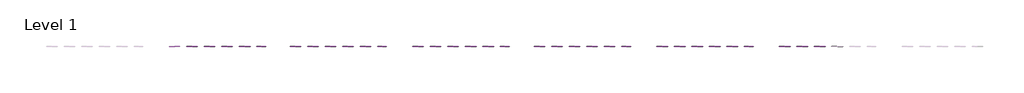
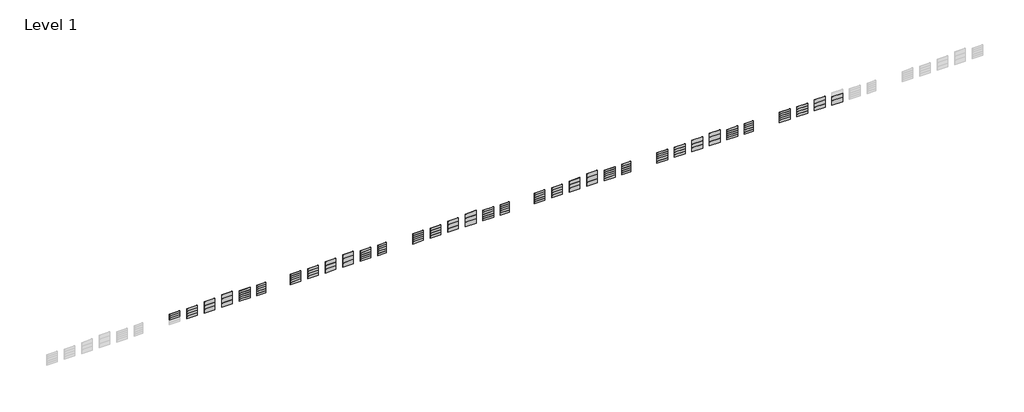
# One storey, part 5 of 7: 137 plates.
"""IFC4 building model written with IfcOpenShell, lengths in millimetres."""

import ifcopenshell
import ifcopenshell.guid

model = None  # the IFC model being written
_history = None  # IfcOwnerHistory: only IFC2X3 demands one
_inside = {}  # id of a spatial element -> (the spatial element, [elements in it])
_under = {}  # id of a project, library or spatial element -> (it, [spatial elements below it])
_declared = {}  # id of a project -> (the project, [libraries it declares])
_typed = {}  # id of a type object -> (the type object, [elements of that type])
_made_of = {}  # id of a material, layer set ... -> (it, [elements and type objects made of it])


def new_model(schema):
    """Start an empty IFC model of exactly this schema.

    Asked for "IFC4X3", IfcOpenShell would pick the latest addendum, in which some entities
    have other attributes; the version numbers below select the first issue.
    IFC2X3 requires an IfcOwnerHistory on every rooted entity: one is made here for all.
    """
    global model, _history
    if schema == "IFC4X3":
        model = ifcopenshell.file(schema_version=(4, 3, 0, 0))
    else:
        model = ifcopenshell.file(schema=schema)
    _inside.clear()
    _under.clear()
    _declared.clear()
    _typed.clear()
    _made_of.clear()
    _history = None
    if model.schema == "IFC2X3":
        org = make("IfcOrganization", Name="unknown")
        user = make(
            "IfcPersonAndOrganization",
            ThePerson=make("IfcPerson", FamilyName="unknown"),
            TheOrganization=org,
        )
        app = make(
            "IfcApplication",
            ApplicationDeveloper=org,
            Version="unknown",
            ApplicationFullName="unknown",
            ApplicationIdentifier="unknown",
        )
        _history = make(
            "IfcOwnerHistory",
            OwningUser=user,
            OwningApplication=app,
            ChangeAction="ADDED",
            CreationDate=0,
        )
    return model


def make(cls, **values):
    """One entity of the class cls with the attributes given. An attribute that is None is left unset."""
    return model.create_entity(
        cls, **{name: value for name, value in values.items() if value is not None}
    )


def rooted(cls, **values):
    """An entity with a GlobalId (a new one), such as an element, a storey or a relation."""
    return make(cls, GlobalId=ifcopenshell.guid.new(), OwnerHistory=_history, **values)


def si_unit(unit_type, name, prefix=None):
    """IfcSIUnit, for example si_unit("LENGTHUNIT", "METRE", prefix="MILLI")."""
    return make("IfcSIUnit", UnitType=unit_type, Prefix=prefix, Name=name)


def assignment(units):
    """IfcUnitAssignment: the units of a project."""
    return None if units is None else make("IfcUnitAssignment", Units=units)


def point(xyz):
    """IfcCartesianPoint."""
    return None if xyz is None else make("IfcCartesianPoint", Coordinates=xyz)


def direction(xyz):
    """IfcDirection."""
    return None if xyz is None else make("IfcDirection", DirectionRatios=xyz)


def frame(location, z_axis=None, x_axis=None):
    """IfcAxis2Placement3D, a coordinate frame: its origin and axes. An axis left out is left unset."""
    return make(
        "IfcAxis2Placement3D",
        Location=point(location),
        Axis=direction(z_axis),
        RefDirection=direction(x_axis),
    )


def origin():
    """The frame at (0, 0, 0) with its axes left unset."""
    return frame((0.0, 0.0, 0.0))


def origin_with_axes():
    """The frame at (0, 0, 0) with the z axis (0, 0, 1) and the x axis (1, 0, 0) written out."""
    return frame((0.0, 0.0, 0.0), z_axis=(0.0, 0.0, 1.0), x_axis=(1.0, 0.0, 0.0))


def place(relative_to, where):
    """IfcLocalPlacement: puts the frame where relative to a parent placement (None: the world)."""
    return make(
        "IfcLocalPlacement", PlacementRelTo=relative_to, RelativePlacement=where
    )


def context(
    kind, dimensions, precision=None, world=None, true_north=None, identifier=None
):
    """IfcGeometricRepresentationContext, for example the 3D "Model" context."""
    return make(
        "IfcGeometricRepresentationContext",
        ContextIdentifier=identifier,
        ContextType=kind,
        CoordinateSpaceDimension=dimensions,
        Precision=precision,
        WorldCoordinateSystem=world,
        TrueNorth=true_north,
    )


def project(units=None, contexts=None):
    """IfcProject with its units and contexts."""
    return rooted(
        "IfcProject",
        Name="project",
        RepresentationContexts=contexts,
        UnitsInContext=assignment(units),
    )


def spatial(cls, under=None, at=None, **own):
    """A site, building, storey or space (cls), placed at a placement, below another one or the project."""
    s = rooted(cls, ObjectPlacement=at, **own)
    if under is not None:
        _under.setdefault(under.id(), (under, []))[1].append(s)
    return s


def polyline(points):
    """IfcPolyline through the points."""
    return make("IfcPolyline", Points=[point(p) for p in points])


def outline(outer, holes=None, kind="AREA"):
    """IfcArbitraryClosedProfileDef: a profile drawn as a closed curve; with holes, ...WithVoids."""
    if holes is None:
        return make("IfcArbitraryClosedProfileDef", ProfileType=kind, OuterCurve=outer)
    return make(
        "IfcArbitraryProfileDefWithVoids",
        ProfileType=kind,
        OuterCurve=outer,
        InnerCurves=holes,
    )


def extrude(swept, where, along, depth):
    """IfcExtrudedAreaSolid: the profile swept, set in the frame where, extruded along a direction by depth."""
    return make(
        "IfcExtrudedAreaSolid",
        SweptArea=swept,
        Position=where,
        ExtrudedDirection=direction(along),
        Depth=depth,
    )


def shape(context_of_items, identifier, shape_type, items):
    """IfcShapeRepresentation: the items that make up one representation, for example the "Body"."""
    return make(
        "IfcShapeRepresentation",
        ContextOfItems=context_of_items,
        RepresentationIdentifier=identifier,
        RepresentationType=shape_type,
        Items=items,
    )


def source(mapping_origin, context_of_items, identifier, shape_type, items):
    """IfcRepresentationMap: a shape defined once, which mapped items show again and again."""
    return make(
        "IfcRepresentationMap",
        MappingOrigin=mapping_origin,
        MappedRepresentation=shape(context_of_items, identifier, shape_type, items),
    )


def transform(
    local_origin,
    x_axis=None,
    y_axis=None,
    z_axis=None,
    scale=None,
    scale2=None,
    scale3=None,
    uniform=True,
):
    """IfcCartesianTransformationOperator3D, or its non-uniform kind. x_axis, y_axis, z_axis: its Axis1, 2, 3."""
    if uniform:
        return make(
            "IfcCartesianTransformationOperator3D",
            Axis1=direction(x_axis),
            Axis2=direction(y_axis),
            LocalOrigin=point(local_origin),
            Scale=scale,
            Axis3=direction(z_axis),
        )
    return make(
        "IfcCartesianTransformationOperator3DnonUniform",
        Axis1=direction(x_axis),
        Axis2=direction(y_axis),
        LocalOrigin=point(local_origin),
        Scale=scale,
        Axis3=direction(z_axis),
        Scale2=scale2,
        Scale3=scale3,
    )


def mapped(mapping_source, mapping_target):
    """IfcMappedItem: shows the shape of a source again, moved by a transform."""
    return make(
        "IfcMappedItem", MappingSource=mapping_source, MappingTarget=mapping_target
    )


def made_of(thing, what):
    """Note that an element or type object is made of a material, layer set ...; save() writes the relation."""
    if what is not None:
        _made_of.setdefault(what.id(), (what, []))[1].append(thing)
    return thing


def element(
    cls,
    number,
    at=None,
    inside=None,
    cuts=None,
    type_object=None,
    material=None,
    context=None,
    identifier="Body",
    shape_type=None,
    held_by="IfcProductDefinitionShape",
    body=None,
    shapes=None,
    **own,
):
    """One element of the class cls, such as IfcWall. Its Tag is "e" and its number.

    at: its placement. inside: the storey or other place that contains it. cuts: it is an
    opening in that element (IfcRelVoidsElement). A single representation is given by context,
    identifier, shape_type and body (its items); several are given by shapes. held_by: the class
    of the entity that holds the representations. save() writes the other relations.
    """
    e = rooted(cls, Tag="e%d" % number, ObjectPlacement=at, **own)
    if body is not None:
        shapes = [shape(context, identifier, shape_type, body)]
    if shapes is not None:
        e.Representation = make(held_by, Representations=shapes)
    if inside is not None:
        _inside.setdefault(inside.id(), (inside, []))[1].append(e)
    if cuts is not None:
        rooted(
            "IfcRelVoidsElement", RelatingBuildingElement=cuts, RelatedOpeningElement=e
        )
    if type_object is not None:
        _typed.setdefault(type_object.id(), (type_object, []))[1].append(e)
    return made_of(e, material)


def aggregate(whole, parts):
    """IfcRelAggregates: a whole, such as a stair, and the parts it consists of."""
    return rooted("IfcRelAggregates", RelatingObject=whole, RelatedObjects=parts)


def save(model, path):
    """Write the relations noted so far, then the file.

    IfcRelAggregates (storeys below a building ...), IfcRelContainedInSpatialStructure (elements
    in a storey), IfcRelDefinesByType, IfcRelAssociatesMaterial and IfcRelDeclares: one each for
    every whole, place, type object, material and project.
    """
    for whole, parts in _under.values():
        aggregate(whole, parts)
    for where, things in _inside.values():
        rooted(
            "IfcRelContainedInSpatialStructure",
            RelatedElements=things,
            RelatingStructure=where,
        )
    for kind, things in _typed.values():
        rooted("IfcRelDefinesByType", RelatedObjects=things, RelatingType=kind)
    for what, things in _made_of.values():
        rooted("IfcRelAssociatesMaterial", RelatedObjects=things, RelatingMaterial=what)
    for by, libraries in _declared.values():
        rooted("IfcRelDeclares", RelatingContext=by, RelatedDefinitions=libraries)
    model.write(path)


def s001_satin_white_12mm_60b0a342(model_context):
    return source(origin(), model_context, "Body", "SweptSolid", [
        extrude(outline(polyline([(1840.0, 6.0), (1840.0, -6.0), (-1840.0, -6.0), (-1840.0, 6.0), (1840.0, 6.0)])), origin_with_axes(), (0.0, 0.0, 1.0), 760.0),
    ])


def s001_satin_white_12mm_af0daad2(model_context):
    return source(origin(), model_context, "Body", "SweptSolid", [
        extrude(outline(polyline([(1840.0, 6.0), (1840.0, -6.0), (-1840.0, -6.0), (-1840.0, 6.0), (1840.0, 6.0)])), origin_with_axes(), (0.0, 0.0, 1.0), 738.1288393),
    ])


def s001_satin_white_12mm_b3103b5f(model_context):
    return source(origin(), model_context, "Body", "SweptSolid", [
        extrude(outline(polyline([(1840.0, 6.0), (1840.0, -6.0), (-1840.0, -6.0), (-1840.0, 6.0), (1840.0, 6.0)])), origin_with_axes(), (0.0, 0.0, 1.0), 910.0),
    ])


def plate_547342df(model_context):
    return source(origin(), model_context, "Body", "SweptSolid", [
        extrude(outline(polyline([(1840.0, 6.0), (1840.0, -6.0), (-1840.0, -6.0), (-1840.0, 6.0), (1840.0, 6.0)])), origin_with_axes(), (0.0, 0.0, 1.0), 893.5112313),
    ])


def s001_satin_white_12mm_c1b55f6d(model_context):
    return source(origin(), model_context, "Body", "SweptSolid", [
        extrude(outline(polyline([(1840.0, 6.0), (1840.0, -6.0), (-1840.0, -6.0), (-1840.0, 6.0), (1840.0, 6.0)])), origin_with_axes(), (0.0, 0.0, 1.0), 1350.0),
    ])


def s001_satin_white_12mm_d668b75a(model_context):
    return source(origin(), model_context, "Body", "SweptSolid", [
        extrude(outline(polyline([(1840.0, 6.0), (1840.0, -6.0), (-1840.0, -6.0), (-1840.0, 6.0), (1840.0, 6.0)])), origin_with_axes(), (0.0, 0.0, 1.0), 1330.2413287),
    ])


def s001_satin_white_12mm_d8c75ca1(model_context):
    return source(origin(), model_context, "Body", "SweptSolid", [
        extrude(outline(polyline([(1840.0, 6.0), (1840.0, -6.0), (-1840.0, -6.0), (-1840.0, 6.0), (1840.0, 6.0)])), origin_with_axes(), (0.0, 0.0, 1.0), 1520.0),
    ])


def s001_satin_white_12mm_670b1509(model_context):
    return source(origin(), model_context, "Body", "SweptSolid", [
        extrude(outline(polyline([(1840.0, 6.0), (1840.0, -6.0), (-1840.0, -6.0), (-1840.0, 6.0), (1840.0, 6.0)])), origin_with_axes(), (0.0, 0.0, 1.0), 1507.8728994),
    ])


def s001_satin_white_20mm_e5290f1d(model_context):
    return source(origin(), model_context, "Body", "SweptSolid", [
        extrude(outline(polyline([(1840.0, 10.0), (1840.0, -10.0), (-1840.0, -10.0), (-1840.0, 10.0), (1840.0, 10.0)])), origin_with_axes(), (0.0, 0.0, 1.0), 760.0),
    ])


def plate_eaecce36(model_context):
    return source(origin(), model_context, "Body", "SweptSolid", [
        extrude(outline(polyline([(1840.0, 10.0), (1840.0, -10.0), (-1840.0, -10.0), (-1840.0, 10.0), (1840.0, 10.0)])), origin_with_axes(), (0.0, 0.0, 1.0), 738.1288393),
    ])


def s001_satin_white_20mm_25284a5f(model_context):
    return source(origin(), model_context, "Body", "SweptSolid", [
        extrude(outline(polyline([(1500.0, 10.0), (1500.0, -10.0), (-1500.0, -10.0), (-1500.0, 10.0), (1500.0, 10.0)])), origin_with_axes(), (0.0, 0.0, 1.0), 760.0),
    ])


def plate_eb5be41b(model_context):
    return source(origin(), model_context, "Body", "SweptSolid", [
        extrude(outline(polyline([(1500.0, 10.0), (1500.0, -10.0), (-1500.0, -10.0), (-1500.0, 10.0), (1500.0, 10.0)])), origin_with_axes(), (0.0, 0.0, 1.0), 738.1288393),
    ])


model = new_model("IFC4")

# Units and contexts
model_context = context("Model", 3, world=origin())
ifc_project = project(units=[si_unit("LENGTHUNIT", "METRE", prefix="MILLI")], contexts=[model_context])

# Site, building, storey
site = spatial("IfcSite", under=ifc_project)
building = spatial("IfcBuilding", under=site)
storey = spatial("IfcBuildingStorey", under=building, Name="Level 1", Elevation=0.0)

# Plates
placement = place(None, origin())
s001_satin_white_12mm_shape = s001_satin_white_12mm_60b0a342(model_context)
element("IfcPlate", 1, ObjectType="Curtain-Panels_Outdoor-Material_HI-MACS_Solids : S104_Toffee-Brown_12mm", at=placement, inside=storey, context=model_context, shape_type="MappedRepresentation", body=[
    mapped(s001_satin_white_12mm_shape, transform((665815.8858072, 1061.3187116, 1520.0), x_axis=(1.0, 0.0, 0.0), y_axis=(0.0, 1.0, 0.0), z_axis=(0.0, 0.0, 1.0))),
])
element("IfcPlate", 2, ObjectType="Curtain-Panels_Outdoor-Material_HI-MACS_Solids : S104_Toffee-Brown_12mm", at=placement, inside=storey, context=model_context, shape_type="MappedRepresentation", body=[
    mapped(s001_satin_white_12mm_shape, transform((665815.8858072, 1061.3187116, 2280.0), x_axis=(1.0, 0.0, 0.0), y_axis=(0.0, 1.0, 0.0), z_axis=(0.0, 0.0, 1.0))),
])
s001_satin_white_12mm_2_shape = s001_satin_white_12mm_af0daad2(model_context)
element("IfcPlate", 3, ObjectType="Curtain-Panels_Outdoor-Material_HI-MACS_Solids : S104_Toffee-Brown_12mm", at=placement, inside=storey, context=model_context, shape_type="MappedRepresentation", body=[
    mapped(s001_satin_white_12mm_2_shape, transform((665815.8858072, 1061.3187116, 3040.0), x_axis=(1.0, 0.0, 0.0), y_axis=(0.0, 1.0, 0.0), z_axis=(0.0, 0.0, 1.0))),
])
s001_satin_white_12mm_3_shape = s001_satin_white_12mm_b3103b5f(model_context)
element("IfcPlate", 4, ObjectType="Curtain-Panels_Outdoor-Material_HI-MACS_Solids : S104_Toffee-Brown_12mm", at=placement, inside=storey, context=model_context, shape_type="MappedRepresentation", body=[
    mapped(s001_satin_white_12mm_3_shape, transform((671815.8858072, 1061.3187116, 0.0), x_axis=(1.0, 0.0, 0.0), y_axis=(0.0, 1.0, 0.0), z_axis=(0.0, 0.0, 1.0))),
])
element("IfcPlate", 5, ObjectType="Curtain-Panels_Outdoor-Material_HI-MACS_Solids : S104_Toffee-Brown_12mm", at=placement, inside=storey, context=model_context, shape_type="MappedRepresentation", body=[
    mapped(s001_satin_white_12mm_3_shape, transform((671815.8858072, 1061.3187116, 910.0), x_axis=(1.0, 0.0, 0.0), y_axis=(0.0, 1.0, 0.0), z_axis=(0.0, 0.0, 1.0))),
])
element("IfcPlate", 6, ObjectType="Curtain-Panels_Outdoor-Material_HI-MACS_Solids : S104_Toffee-Brown_12mm", at=placement, inside=storey, context=model_context, shape_type="MappedRepresentation", body=[
    mapped(s001_satin_white_12mm_3_shape, transform((671815.8858072, 1061.3187116, 1820.0), x_axis=(1.0, 0.0, 0.0), y_axis=(0.0, 1.0, 0.0), z_axis=(0.0, 0.0, 1.0))),
])
plate_shape = plate_547342df(model_context)
element("IfcPlate", 7, ObjectType="Curtain-Panels_Outdoor-Material_HI-MACS_Solids : S104_Toffee-Brown_12mm", at=placement, inside=storey, context=model_context, shape_type="MappedRepresentation", body=[
    mapped(plate_shape, transform((671815.8858072, 1061.3187116, 2730.0), x_axis=(1.0, 0.0, 0.0), y_axis=(0.0, 1.0, 0.0), z_axis=(0.0, 0.0, 1.0))),
])
s001_satin_white_12mm_4_shape = s001_satin_white_12mm_c1b55f6d(model_context)
element("IfcPlate", 8, ObjectType="Curtain-Panels_Outdoor-Material_HI-MACS_Solids : S104_Toffee-Brown_12mm", at=placement, inside=storey, context=model_context, shape_type="MappedRepresentation", body=[
    mapped(s001_satin_white_12mm_4_shape, transform((677815.8858072, 1061.3187116, 0.0), x_axis=(1.0, 0.0, 0.0), y_axis=(0.0, 1.0, 0.0), z_axis=(0.0, 0.0, 1.0))),
])
element("IfcPlate", 9, ObjectType="Curtain-Panels_Outdoor-Material_HI-MACS_Solids : S104_Toffee-Brown_12mm", at=placement, inside=storey, context=model_context, shape_type="MappedRepresentation", body=[
    mapped(s001_satin_white_12mm_4_shape, transform((677815.8858072, 1061.3187116, 1350.0), x_axis=(1.0, 0.0, 0.0), y_axis=(0.0, 1.0, 0.0), z_axis=(0.0, 0.0, 1.0))),
])
s001_satin_white_12mm_5_shape = s001_satin_white_12mm_d668b75a(model_context)
element("IfcPlate", 10, ObjectType="Curtain-Panels_Outdoor-Material_HI-MACS_Solids : S104_Toffee-Brown_12mm", at=placement, inside=storey, context=model_context, shape_type="MappedRepresentation", body=[
    mapped(s001_satin_white_12mm_5_shape, transform((677815.8858072, 1061.3187116, 2700.0), x_axis=(1.0, 0.0, 0.0), y_axis=(0.0, 1.0, 0.0), z_axis=(0.0, 0.0, 1.0))),
])
s001_satin_white_12mm_6_shape = s001_satin_white_12mm_d8c75ca1(model_context)
element("IfcPlate", 11, ObjectType="Curtain-Panels_Outdoor-Material_HI-MACS_Solids : S104_Toffee-Brown_12mm", at=placement, inside=storey, context=model_context, shape_type="MappedRepresentation", body=[
    mapped(s001_satin_white_12mm_6_shape, transform((683815.8858072, 1061.3187116, 0.0), x_axis=(1.0, 0.0, 0.0), y_axis=(0.0, 1.0, 0.0), z_axis=(0.0, 0.0, 1.0))),
])
element("IfcPlate", 12, ObjectType="Curtain-Panels_Outdoor-Material_HI-MACS_Solids : S104_Toffee-Brown_12mm", at=placement, inside=storey, context=model_context, shape_type="MappedRepresentation", body=[
    mapped(s001_satin_white_12mm_6_shape, transform((683815.8858072, 1061.3187116, 1520.0), x_axis=(1.0, 0.0, 0.0), y_axis=(0.0, 1.0, 0.0), z_axis=(0.0, 0.0, 1.0))),
])
s001_satin_white_12mm_7_shape = s001_satin_white_12mm_670b1509(model_context)
element("IfcPlate", 13, ObjectType="Curtain-Panels_Outdoor-Material_HI-MACS_Solids : S104_Toffee-Brown_12mm", at=placement, inside=storey, context=model_context, shape_type="MappedRepresentation", body=[
    mapped(s001_satin_white_12mm_7_shape, transform((683815.8858072, 1061.3187116, 3040.0), x_axis=(1.0, 0.0, 0.0), y_axis=(0.0, 1.0, 0.0), z_axis=(0.0, 0.0, 1.0))),
])
s001_satin_white_20mm_shape = s001_satin_white_20mm_e5290f1d(model_context)
element("IfcPlate", 14, ObjectType="Curtain-Panels_Outdoor-Material_HI-MACS_Solids : S104_Toffee-Brown_20mm", at=placement, inside=storey, context=model_context, shape_type="MappedRepresentation", body=[
    mapped(s001_satin_white_20mm_shape, transform((689815.8858072, 1061.3187116, 0.0), x_axis=(1.0, 0.0, 0.0), y_axis=(0.0, 1.0, 0.0), z_axis=(0.0, 0.0, 1.0))),
])
element("IfcPlate", 15, ObjectType="Curtain-Panels_Outdoor-Material_HI-MACS_Solids : S104_Toffee-Brown_20mm", at=placement, inside=storey, context=model_context, shape_type="MappedRepresentation", body=[
    mapped(s001_satin_white_20mm_shape, transform((689815.8858072, 1061.3187116, 760.0), x_axis=(1.0, 0.0, 0.0), y_axis=(0.0, 1.0, 0.0), z_axis=(0.0, 0.0, 1.0))),
])
element("IfcPlate", 16, ObjectType="Curtain-Panels_Outdoor-Material_HI-MACS_Solids : S104_Toffee-Brown_20mm", at=placement, inside=storey, context=model_context, shape_type="MappedRepresentation", body=[
    mapped(s001_satin_white_20mm_shape, transform((689815.8858072, 1061.3187116, 1520.0), x_axis=(1.0, 0.0, 0.0), y_axis=(0.0, 1.0, 0.0), z_axis=(0.0, 0.0, 1.0))),
])
element("IfcPlate", 17, ObjectType="Curtain-Panels_Outdoor-Material_HI-MACS_Solids : S104_Toffee-Brown_20mm", at=placement, inside=storey, context=model_context, shape_type="MappedRepresentation", body=[
    mapped(s001_satin_white_20mm_shape, transform((689815.8858072, 1061.3187116, 2280.0), x_axis=(1.0, 0.0, 0.0), y_axis=(0.0, 1.0, 0.0), z_axis=(0.0, 0.0, 1.0))),
])
plate_2_shape = plate_eaecce36(model_context)
element("IfcPlate", 18, ObjectType="Curtain-Panels_Outdoor-Material_HI-MACS_Solids : S104_Toffee-Brown_20mm", at=placement, inside=storey, context=model_context, shape_type="MappedRepresentation", body=[
    mapped(plate_2_shape, transform((689815.8858072, 1061.3187116, 3040.0), x_axis=(1.0, 0.0, 0.0), y_axis=(0.0, 1.0, 0.0), z_axis=(0.0, 0.0, 1.0))),
])
s001_satin_white_20mm_2_shape = s001_satin_white_20mm_25284a5f(model_context)
element("IfcPlate", 19, ObjectType="Curtain-Panels_Outdoor-Material_HI-MACS_Solids : S104_Toffee-Brown_20mm", at=placement, inside=storey, context=model_context, shape_type="MappedRepresentation", body=[
    mapped(s001_satin_white_20mm_2_shape, transform((695475.8858072, 1061.3187116, 0.0), x_axis=(1.0, 0.0, 0.0), y_axis=(0.0, 1.0, 0.0), z_axis=(0.0, 0.0, 1.0))),
])
element("IfcPlate", 20, ObjectType="Curtain-Panels_Outdoor-Material_HI-MACS_Solids : S104_Toffee-Brown_20mm", at=placement, inside=storey, context=model_context, shape_type="MappedRepresentation", body=[
    mapped(s001_satin_white_20mm_2_shape, transform((695475.8858072, 1061.3187116, 760.0), x_axis=(1.0, 0.0, 0.0), y_axis=(0.0, 1.0, 0.0), z_axis=(0.0, 0.0, 1.0))),
])
element("IfcPlate", 21, ObjectType="Curtain-Panels_Outdoor-Material_HI-MACS_Solids : S104_Toffee-Brown_20mm", at=placement, inside=storey, context=model_context, shape_type="MappedRepresentation", body=[
    mapped(s001_satin_white_20mm_2_shape, transform((695475.8858072, 1061.3187116, 1520.0), x_axis=(1.0, 0.0, 0.0), y_axis=(0.0, 1.0, 0.0), z_axis=(0.0, 0.0, 1.0))),
])
element("IfcPlate", 22, ObjectType="Curtain-Panels_Outdoor-Material_HI-MACS_Solids : S104_Toffee-Brown_20mm", at=placement, inside=storey, context=model_context, shape_type="MappedRepresentation", body=[
    mapped(s001_satin_white_20mm_2_shape, transform((695475.8858072, 1061.3187116, 2280.0), x_axis=(1.0, 0.0, 0.0), y_axis=(0.0, 1.0, 0.0), z_axis=(0.0, 0.0, 1.0))),
])
plate_3_shape = plate_eb5be41b(model_context)
element("IfcPlate", 23, ObjectType="Curtain-Panels_Outdoor-Material_HI-MACS_Solids : S104_Toffee-Brown_20mm", at=placement, inside=storey, context=model_context, shape_type="MappedRepresentation", body=[
    mapped(plate_3_shape, transform((695475.8858072, 1061.3187116, 3040.0), x_axis=(1.0, 0.0, 0.0), y_axis=(0.0, 1.0, 0.0), z_axis=(0.0, 0.0, 1.0))),
])
element("IfcPlate", 24, ObjectType="Curtain-Panels_Outdoor-Material_HI-MACS_Solids : S106_Lemon-Squash_12mm", at=placement, inside=storey, context=model_context, shape_type="MappedRepresentation", body=[
    mapped(s001_satin_white_12mm_shape, transform((707215.8858072, 1061.3187116, 0.0), x_axis=(1.0, 0.0, 0.0), y_axis=(0.0, 1.0, 0.0), z_axis=(0.0, 0.0, 1.0))),
])
element("IfcPlate", 25, ObjectType="Curtain-Panels_Outdoor-Material_HI-MACS_Solids : S106_Lemon-Squash_12mm", at=placement, inside=storey, context=model_context, shape_type="MappedRepresentation", body=[
    mapped(s001_satin_white_12mm_shape, transform((707215.8858072, 1061.3187116, 760.0), x_axis=(1.0, 0.0, 0.0), y_axis=(0.0, 1.0, 0.0), z_axis=(0.0, 0.0, 1.0))),
])
element("IfcPlate", 26, ObjectType="Curtain-Panels_Outdoor-Material_HI-MACS_Solids : S106_Lemon-Squash_12mm", at=placement, inside=storey, context=model_context, shape_type="MappedRepresentation", body=[
    mapped(s001_satin_white_12mm_shape, transform((707215.8858072, 1061.3187116, 1520.0), x_axis=(1.0, 0.0, 0.0), y_axis=(0.0, 1.0, 0.0), z_axis=(0.0, 0.0, 1.0))),
])
element("IfcPlate", 27, ObjectType="Curtain-Panels_Outdoor-Material_HI-MACS_Solids : S106_Lemon-Squash_12mm", at=placement, inside=storey, context=model_context, shape_type="MappedRepresentation", body=[
    mapped(s001_satin_white_12mm_shape, transform((707215.8858072, 1061.3187116, 2280.0), x_axis=(1.0, 0.0, 0.0), y_axis=(0.0, 1.0, 0.0), z_axis=(0.0, 0.0, 1.0))),
])
element("IfcPlate", 28, ObjectType="Curtain-Panels_Outdoor-Material_HI-MACS_Solids : S106_Lemon-Squash_12mm", at=placement, inside=storey, context=model_context, shape_type="MappedRepresentation", body=[
    mapped(s001_satin_white_12mm_2_shape, transform((707215.8858072, 1061.3187116, 3040.0), x_axis=(1.0, 0.0, 0.0), y_axis=(0.0, 1.0, 0.0), z_axis=(0.0, 0.0, 1.0))),
])
element("IfcPlate", 29, ObjectType="Curtain-Panels_Outdoor-Material_HI-MACS_Solids : S106_Lemon-Squash_12mm", at=placement, inside=storey, context=model_context, shape_type="MappedRepresentation", body=[
    mapped(s001_satin_white_12mm_3_shape, transform((713215.8858072, 1061.3187116, 0.0), x_axis=(1.0, 0.0, 0.0), y_axis=(0.0, 1.0, 0.0), z_axis=(0.0, 0.0, 1.0))),
])
element("IfcPlate", 30, ObjectType="Curtain-Panels_Outdoor-Material_HI-MACS_Solids : S106_Lemon-Squash_12mm", at=placement, inside=storey, context=model_context, shape_type="MappedRepresentation", body=[
    mapped(s001_satin_white_12mm_3_shape, transform((713215.8858072, 1061.3187116, 910.0), x_axis=(1.0, 0.0, 0.0), y_axis=(0.0, 1.0, 0.0), z_axis=(0.0, 0.0, 1.0))),
])
element("IfcPlate", 31, ObjectType="Curtain-Panels_Outdoor-Material_HI-MACS_Solids : S106_Lemon-Squash_12mm", at=placement, inside=storey, context=model_context, shape_type="MappedRepresentation", body=[
    mapped(s001_satin_white_12mm_3_shape, transform((713215.8858072, 1061.3187116, 1820.0), x_axis=(1.0, 0.0, 0.0), y_axis=(0.0, 1.0, 0.0), z_axis=(0.0, 0.0, 1.0))),
])
element("IfcPlate", 32, ObjectType="Curtain-Panels_Outdoor-Material_HI-MACS_Solids : S106_Lemon-Squash_12mm", at=placement, inside=storey, context=model_context, shape_type="MappedRepresentation", body=[
    mapped(plate_shape, transform((713215.8858072, 1061.3187116, 2730.0), x_axis=(1.0, 0.0, 0.0), y_axis=(0.0, 1.0, 0.0), z_axis=(0.0, 0.0, 1.0))),
])
element("IfcPlate", 33, ObjectType="Curtain-Panels_Outdoor-Material_HI-MACS_Solids : S106_Lemon-Squash_12mm", at=placement, inside=storey, context=model_context, shape_type="MappedRepresentation", body=[
    mapped(s001_satin_white_12mm_4_shape, transform((719215.8858072, 1061.3187116, 0.0), x_axis=(1.0, 0.0, 0.0), y_axis=(0.0, 1.0, 0.0), z_axis=(0.0, 0.0, 1.0))),
])
element("IfcPlate", 34, ObjectType="Curtain-Panels_Outdoor-Material_HI-MACS_Solids : S106_Lemon-Squash_12mm", at=placement, inside=storey, context=model_context, shape_type="MappedRepresentation", body=[
    mapped(s001_satin_white_12mm_4_shape, transform((719215.8858072, 1061.3187116, 1350.0), x_axis=(1.0, 0.0, 0.0), y_axis=(0.0, 1.0, 0.0), z_axis=(0.0, 0.0, 1.0))),
])
element("IfcPlate", 35, ObjectType="Curtain-Panels_Outdoor-Material_HI-MACS_Solids : S106_Lemon-Squash_12mm", at=placement, inside=storey, context=model_context, shape_type="MappedRepresentation", body=[
    mapped(s001_satin_white_12mm_5_shape, transform((719215.8858072, 1061.3187116, 2700.0), x_axis=(1.0, 0.0, 0.0), y_axis=(0.0, 1.0, 0.0), z_axis=(0.0, 0.0, 1.0))),
])
element("IfcPlate", 36, ObjectType="Curtain-Panels_Outdoor-Material_HI-MACS_Solids : S106_Lemon-Squash_12mm", at=placement, inside=storey, context=model_context, shape_type="MappedRepresentation", body=[
    mapped(s001_satin_white_12mm_6_shape, transform((725215.8858072, 1061.3187116, 0.0), x_axis=(1.0, 0.0, 0.0), y_axis=(0.0, 1.0, 0.0), z_axis=(0.0, 0.0, 1.0))),
])
element("IfcPlate", 37, ObjectType="Curtain-Panels_Outdoor-Material_HI-MACS_Solids : S106_Lemon-Squash_12mm", at=placement, inside=storey, context=model_context, shape_type="MappedRepresentation", body=[
    mapped(s001_satin_white_12mm_6_shape, transform((725215.8858072, 1061.3187116, 1520.0), x_axis=(1.0, 0.0, 0.0), y_axis=(0.0, 1.0, 0.0), z_axis=(0.0, 0.0, 1.0))),
])
element("IfcPlate", 38, ObjectType="Curtain-Panels_Outdoor-Material_HI-MACS_Solids : S106_Lemon-Squash_12mm", at=placement, inside=storey, context=model_context, shape_type="MappedRepresentation", body=[
    mapped(s001_satin_white_12mm_7_shape, transform((725215.8858072, 1061.3187116, 3040.0), x_axis=(1.0, 0.0, 0.0), y_axis=(0.0, 1.0, 0.0), z_axis=(0.0, 0.0, 1.0))),
])
element("IfcPlate", 39, ObjectType="Curtain-Panels_Outdoor-Material_HI-MACS_Solids : S106_Lemon-Squash_20mm", at=placement, inside=storey, context=model_context, shape_type="MappedRepresentation", body=[
    mapped(s001_satin_white_20mm_shape, transform((731215.8858072, 1061.3187116, 0.0), x_axis=(1.0, 0.0, 0.0), y_axis=(0.0, 1.0, 0.0), z_axis=(0.0, 0.0, 1.0))),
])
element("IfcPlate", 40, ObjectType="Curtain-Panels_Outdoor-Material_HI-MACS_Solids : S106_Lemon-Squash_20mm", at=placement, inside=storey, context=model_context, shape_type="MappedRepresentation", body=[
    mapped(s001_satin_white_20mm_shape, transform((731215.8858072, 1061.3187116, 760.0), x_axis=(1.0, 0.0, 0.0), y_axis=(0.0, 1.0, 0.0), z_axis=(0.0, 0.0, 1.0))),
])
element("IfcPlate", 41, ObjectType="Curtain-Panels_Outdoor-Material_HI-MACS_Solids : S106_Lemon-Squash_20mm", at=placement, inside=storey, context=model_context, shape_type="MappedRepresentation", body=[
    mapped(s001_satin_white_20mm_shape, transform((731215.8858072, 1061.3187116, 1520.0), x_axis=(1.0, 0.0, 0.0), y_axis=(0.0, 1.0, 0.0), z_axis=(0.0, 0.0, 1.0))),
])
element("IfcPlate", 42, ObjectType="Curtain-Panels_Outdoor-Material_HI-MACS_Solids : S106_Lemon-Squash_20mm", at=placement, inside=storey, context=model_context, shape_type="MappedRepresentation", body=[
    mapped(s001_satin_white_20mm_shape, transform((731215.8858072, 1061.3187116, 2280.0), x_axis=(1.0, 0.0, 0.0), y_axis=(0.0, 1.0, 0.0), z_axis=(0.0, 0.0, 1.0))),
])
element("IfcPlate", 43, ObjectType="Curtain-Panels_Outdoor-Material_HI-MACS_Solids : S106_Lemon-Squash_20mm", at=placement, inside=storey, context=model_context, shape_type="MappedRepresentation", body=[
    mapped(plate_2_shape, transform((731215.8858072, 1061.3187116, 3040.0), x_axis=(1.0, 0.0, 0.0), y_axis=(0.0, 1.0, 0.0), z_axis=(0.0, 0.0, 1.0))),
])
element("IfcPlate", 44, ObjectType="Curtain-Panels_Outdoor-Material_HI-MACS_Solids : S106_Lemon-Squash_20mm", at=placement, inside=storey, context=model_context, shape_type="MappedRepresentation", body=[
    mapped(s001_satin_white_20mm_2_shape, transform((736875.8858072, 1061.3187116, 0.0), x_axis=(1.0, 0.0, 0.0), y_axis=(0.0, 1.0, 0.0), z_axis=(0.0, 0.0, 1.0))),
])
element("IfcPlate", 45, ObjectType="Curtain-Panels_Outdoor-Material_HI-MACS_Solids : S106_Lemon-Squash_20mm", at=placement, inside=storey, context=model_context, shape_type="MappedRepresentation", body=[
    mapped(s001_satin_white_20mm_2_shape, transform((736875.8858072, 1061.3187116, 760.0), x_axis=(1.0, 0.0, 0.0), y_axis=(0.0, 1.0, 0.0), z_axis=(0.0, 0.0, 1.0))),
])
element("IfcPlate", 46, ObjectType="Curtain-Panels_Outdoor-Material_HI-MACS_Solids : S106_Lemon-Squash_20mm", at=placement, inside=storey, context=model_context, shape_type="MappedRepresentation", body=[
    mapped(s001_satin_white_20mm_2_shape, transform((736875.8858072, 1061.3187116, 1520.0), x_axis=(1.0, 0.0, 0.0), y_axis=(0.0, 1.0, 0.0), z_axis=(0.0, 0.0, 1.0))),
])
element("IfcPlate", 47, ObjectType="Curtain-Panels_Outdoor-Material_HI-MACS_Solids : S106_Lemon-Squash_20mm", at=placement, inside=storey, context=model_context, shape_type="MappedRepresentation", body=[
    mapped(s001_satin_white_20mm_2_shape, transform((736875.8858072, 1061.3187116, 2280.0), x_axis=(1.0, 0.0, 0.0), y_axis=(0.0, 1.0, 0.0), z_axis=(0.0, 0.0, 1.0))),
])
element("IfcPlate", 48, ObjectType="Curtain-Panels_Outdoor-Material_HI-MACS_Solids : S106_Lemon-Squash_20mm", at=placement, inside=storey, context=model_context, shape_type="MappedRepresentation", body=[
    mapped(plate_3_shape, transform((736875.8858072, 1061.3187116, 3040.0), x_axis=(1.0, 0.0, 0.0), y_axis=(0.0, 1.0, 0.0), z_axis=(0.0, 0.0, 1.0))),
])
element("IfcPlate", 49, ObjectType="Curtain-Panels_Outdoor-Material_HI-MACS_Solids : S108_Marta-Grey_12mm", at=placement, inside=storey, context=model_context, shape_type="MappedRepresentation", body=[
    mapped(s001_satin_white_12mm_shape, transform((749215.8858072, 1061.3187116, 0.0), x_axis=(1.0, 0.0, 0.0), y_axis=(0.0, 1.0, 0.0), z_axis=(0.0, 0.0, 1.0))),
])
element("IfcPlate", 50, ObjectType="Curtain-Panels_Outdoor-Material_HI-MACS_Solids : S108_Marta-Grey_12mm", at=placement, inside=storey, context=model_context, shape_type="MappedRepresentation", body=[
    mapped(s001_satin_white_12mm_shape, transform((749215.8858072, 1061.3187116, 760.0), x_axis=(1.0, 0.0, 0.0), y_axis=(0.0, 1.0, 0.0), z_axis=(0.0, 0.0, 1.0))),
])
element("IfcPlate", 51, ObjectType="Curtain-Panels_Outdoor-Material_HI-MACS_Solids : S108_Marta-Grey_12mm", at=placement, inside=storey, context=model_context, shape_type="MappedRepresentation", body=[
    mapped(s001_satin_white_12mm_shape, transform((749215.8858072, 1061.3187116, 1520.0), x_axis=(1.0, 0.0, 0.0), y_axis=(0.0, 1.0, 0.0), z_axis=(0.0, 0.0, 1.0))),
])
element("IfcPlate", 52, ObjectType="Curtain-Panels_Outdoor-Material_HI-MACS_Solids : S108_Marta-Grey_12mm", at=placement, inside=storey, context=model_context, shape_type="MappedRepresentation", body=[
    mapped(s001_satin_white_12mm_shape, transform((749215.8858072, 1061.3187116, 2280.0), x_axis=(1.0, 0.0, 0.0), y_axis=(0.0, 1.0, 0.0), z_axis=(0.0, 0.0, 1.0))),
])
element("IfcPlate", 53, ObjectType="Curtain-Panels_Outdoor-Material_HI-MACS_Solids : S108_Marta-Grey_12mm", at=placement, inside=storey, context=model_context, shape_type="MappedRepresentation", body=[
    mapped(s001_satin_white_12mm_2_shape, transform((749215.8858072, 1061.3187116, 3040.0), x_axis=(1.0, 0.0, 0.0), y_axis=(0.0, 1.0, 0.0), z_axis=(0.0, 0.0, 1.0))),
])
element("IfcPlate", 54, ObjectType="Curtain-Panels_Outdoor-Material_HI-MACS_Solids : S108_Marta-Grey_12mm", at=placement, inside=storey, context=model_context, shape_type="MappedRepresentation", body=[
    mapped(s001_satin_white_12mm_3_shape, transform((755215.8858072, 1061.3187116, 0.0), x_axis=(1.0, 0.0, 0.0), y_axis=(0.0, 1.0, 0.0), z_axis=(0.0, 0.0, 1.0))),
])
element("IfcPlate", 55, ObjectType="Curtain-Panels_Outdoor-Material_HI-MACS_Solids : S108_Marta-Grey_12mm", at=placement, inside=storey, context=model_context, shape_type="MappedRepresentation", body=[
    mapped(s001_satin_white_12mm_3_shape, transform((755215.8858072, 1061.3187116, 910.0), x_axis=(1.0, 0.0, 0.0), y_axis=(0.0, 1.0, 0.0), z_axis=(0.0, 0.0, 1.0))),
])
element("IfcPlate", 56, ObjectType="Curtain-Panels_Outdoor-Material_HI-MACS_Solids : S108_Marta-Grey_12mm", at=placement, inside=storey, context=model_context, shape_type="MappedRepresentation", body=[
    mapped(s001_satin_white_12mm_3_shape, transform((755215.8858072, 1061.3187116, 1820.0), x_axis=(1.0, 0.0, 0.0), y_axis=(0.0, 1.0, 0.0), z_axis=(0.0, 0.0, 1.0))),
])
element("IfcPlate", 57, ObjectType="Curtain-Panels_Outdoor-Material_HI-MACS_Solids : S108_Marta-Grey_12mm", at=placement, inside=storey, context=model_context, shape_type="MappedRepresentation", body=[
    mapped(plate_shape, transform((755215.8858072, 1061.3187116, 2730.0), x_axis=(1.0, 0.0, 0.0), y_axis=(0.0, 1.0, 0.0), z_axis=(0.0, 0.0, 1.0))),
])
element("IfcPlate", 58, ObjectType="Curtain-Panels_Outdoor-Material_HI-MACS_Solids : S108_Marta-Grey_12mm", at=placement, inside=storey, context=model_context, shape_type="MappedRepresentation", body=[
    mapped(s001_satin_white_12mm_4_shape, transform((761215.8858072, 1061.3187116, 0.0), x_axis=(1.0, 0.0, 0.0), y_axis=(0.0, 1.0, 0.0), z_axis=(0.0, 0.0, 1.0))),
])
element("IfcPlate", 59, ObjectType="Curtain-Panels_Outdoor-Material_HI-MACS_Solids : S108_Marta-Grey_12mm", at=placement, inside=storey, context=model_context, shape_type="MappedRepresentation", body=[
    mapped(s001_satin_white_12mm_4_shape, transform((761215.8858072, 1061.3187116, 1350.0), x_axis=(1.0, 0.0, 0.0), y_axis=(0.0, 1.0, 0.0), z_axis=(0.0, 0.0, 1.0))),
])
element("IfcPlate", 60, ObjectType="Curtain-Panels_Outdoor-Material_HI-MACS_Solids : S108_Marta-Grey_12mm", at=placement, inside=storey, context=model_context, shape_type="MappedRepresentation", body=[
    mapped(s001_satin_white_12mm_5_shape, transform((761215.8858072, 1061.3187116, 2700.0), x_axis=(1.0, 0.0, 0.0), y_axis=(0.0, 1.0, 0.0), z_axis=(0.0, 0.0, 1.0))),
])
element("IfcPlate", 61, ObjectType="Curtain-Panels_Outdoor-Material_HI-MACS_Solids : S108_Marta-Grey_12mm", at=placement, inside=storey, context=model_context, shape_type="MappedRepresentation", body=[
    mapped(s001_satin_white_12mm_6_shape, transform((767215.8858072, 1061.3187116, 0.0), x_axis=(1.0, 0.0, 0.0), y_axis=(0.0, 1.0, 0.0), z_axis=(0.0, 0.0, 1.0))),
])
element("IfcPlate", 62, ObjectType="Curtain-Panels_Outdoor-Material_HI-MACS_Solids : S108_Marta-Grey_12mm", at=placement, inside=storey, context=model_context, shape_type="MappedRepresentation", body=[
    mapped(s001_satin_white_12mm_6_shape, transform((767215.8858072, 1061.3187116, 1520.0), x_axis=(1.0, 0.0, 0.0), y_axis=(0.0, 1.0, 0.0), z_axis=(0.0, 0.0, 1.0))),
])
element("IfcPlate", 63, ObjectType="Curtain-Panels_Outdoor-Material_HI-MACS_Solids : S108_Marta-Grey_12mm", at=placement, inside=storey, context=model_context, shape_type="MappedRepresentation", body=[
    mapped(s001_satin_white_12mm_7_shape, transform((767215.8858072, 1061.3187116, 3040.0), x_axis=(1.0, 0.0, 0.0), y_axis=(0.0, 1.0, 0.0), z_axis=(0.0, 0.0, 1.0))),
])
element("IfcPlate", 64, ObjectType="Curtain-Panels_Outdoor-Material_HI-MACS_Solids : S108_Marta-Grey_20mm", at=placement, inside=storey, context=model_context, shape_type="MappedRepresentation", body=[
    mapped(s001_satin_white_20mm_shape, transform((773215.8858072, 1061.3187116, 0.0), x_axis=(1.0, 0.0, 0.0), y_axis=(0.0, 1.0, 0.0), z_axis=(0.0, 0.0, 1.0))),
])
element("IfcPlate", 65, ObjectType="Curtain-Panels_Outdoor-Material_HI-MACS_Solids : S108_Marta-Grey_20mm", at=placement, inside=storey, context=model_context, shape_type="MappedRepresentation", body=[
    mapped(s001_satin_white_20mm_shape, transform((773215.8858072, 1061.3187116, 760.0), x_axis=(1.0, 0.0, 0.0), y_axis=(0.0, 1.0, 0.0), z_axis=(0.0, 0.0, 1.0))),
])
element("IfcPlate", 66, ObjectType="Curtain-Panels_Outdoor-Material_HI-MACS_Solids : S108_Marta-Grey_20mm", at=placement, inside=storey, context=model_context, shape_type="MappedRepresentation", body=[
    mapped(s001_satin_white_20mm_shape, transform((773215.8858072, 1061.3187116, 1520.0), x_axis=(1.0, 0.0, 0.0), y_axis=(0.0, 1.0, 0.0), z_axis=(0.0, 0.0, 1.0))),
])
element("IfcPlate", 67, ObjectType="Curtain-Panels_Outdoor-Material_HI-MACS_Solids : S108_Marta-Grey_20mm", at=placement, inside=storey, context=model_context, shape_type="MappedRepresentation", body=[
    mapped(s001_satin_white_20mm_shape, transform((773215.8858072, 1061.3187116, 2280.0), x_axis=(1.0, 0.0, 0.0), y_axis=(0.0, 1.0, 0.0), z_axis=(0.0, 0.0, 1.0))),
])
element("IfcPlate", 68, ObjectType="Curtain-Panels_Outdoor-Material_HI-MACS_Solids : S108_Marta-Grey_20mm", at=placement, inside=storey, context=model_context, shape_type="MappedRepresentation", body=[
    mapped(plate_2_shape, transform((773215.8858072, 1061.3187116, 3040.0), x_axis=(1.0, 0.0, 0.0), y_axis=(0.0, 1.0, 0.0), z_axis=(0.0, 0.0, 1.0))),
])
element("IfcPlate", 69, ObjectType="Curtain-Panels_Outdoor-Material_HI-MACS_Solids : S108_Marta-Grey_20mm", at=placement, inside=storey, context=model_context, shape_type="MappedRepresentation", body=[
    mapped(s001_satin_white_20mm_2_shape, transform((778875.8858072, 1061.3187116, 0.0), x_axis=(1.0, 0.0, 0.0), y_axis=(0.0, 1.0, 0.0), z_axis=(0.0, 0.0, 1.0))),
])
element("IfcPlate", 70, ObjectType="Curtain-Panels_Outdoor-Material_HI-MACS_Solids : S108_Marta-Grey_20mm", at=placement, inside=storey, context=model_context, shape_type="MappedRepresentation", body=[
    mapped(s001_satin_white_20mm_2_shape, transform((778875.8858072, 1061.3187116, 760.0), x_axis=(1.0, 0.0, 0.0), y_axis=(0.0, 1.0, 0.0), z_axis=(0.0, 0.0, 1.0))),
])
element("IfcPlate", 71, ObjectType="Curtain-Panels_Outdoor-Material_HI-MACS_Solids : S108_Marta-Grey_20mm", at=placement, inside=storey, context=model_context, shape_type="MappedRepresentation", body=[
    mapped(s001_satin_white_20mm_2_shape, transform((778875.8858072, 1061.3187116, 1520.0), x_axis=(1.0, 0.0, 0.0), y_axis=(0.0, 1.0, 0.0), z_axis=(0.0, 0.0, 1.0))),
])
element("IfcPlate", 72, ObjectType="Curtain-Panels_Outdoor-Material_HI-MACS_Solids : S108_Marta-Grey_20mm", at=placement, inside=storey, context=model_context, shape_type="MappedRepresentation", body=[
    mapped(s001_satin_white_20mm_2_shape, transform((778875.8858072, 1061.3187116, 2280.0), x_axis=(1.0, 0.0, 0.0), y_axis=(0.0, 1.0, 0.0), z_axis=(0.0, 0.0, 1.0))),
])
element("IfcPlate", 73, ObjectType="Curtain-Panels_Outdoor-Material_HI-MACS_Solids : S108_Marta-Grey_20mm", at=placement, inside=storey, context=model_context, shape_type="MappedRepresentation", body=[
    mapped(plate_3_shape, transform((778875.8858072, 1061.3187116, 3040.0), x_axis=(1.0, 0.0, 0.0), y_axis=(0.0, 1.0, 0.0), z_axis=(0.0, 0.0, 1.0))),
])
element("IfcPlate", 74, ObjectType="Curtain-Panels_Outdoor-Material_HI-MACS_Solids : S115_Deep-Indigo_12mm", at=placement, inside=storey, context=model_context, shape_type="MappedRepresentation", body=[
    mapped(s001_satin_white_12mm_shape, transform((874815.8858072, 1061.3187116, 0.0), x_axis=(1.0, 0.0, 0.0), y_axis=(0.0, 1.0, 0.0), z_axis=(0.0, 0.0, 1.0))),
])
element("IfcPlate", 75, ObjectType="Curtain-Panels_Outdoor-Material_HI-MACS_Solids : S115_Deep-Indigo_12mm", at=placement, inside=storey, context=model_context, shape_type="MappedRepresentation", body=[
    mapped(s001_satin_white_12mm_shape, transform((874815.8858072, 1061.3187116, 760.0), x_axis=(1.0, 0.0, 0.0), y_axis=(0.0, 1.0, 0.0), z_axis=(0.0, 0.0, 1.0))),
])
element("IfcPlate", 76, ObjectType="Curtain-Panels_Outdoor-Material_HI-MACS_Solids : S115_Deep-Indigo_12mm", at=placement, inside=storey, context=model_context, shape_type="MappedRepresentation", body=[
    mapped(s001_satin_white_12mm_shape, transform((874815.8858072, 1061.3187116, 1520.0), x_axis=(1.0, 0.0, 0.0), y_axis=(0.0, 1.0, 0.0), z_axis=(0.0, 0.0, 1.0))),
])
element("IfcPlate", 77, ObjectType="Curtain-Panels_Outdoor-Material_HI-MACS_Solids : S115_Deep-Indigo_12mm", at=placement, inside=storey, context=model_context, shape_type="MappedRepresentation", body=[
    mapped(s001_satin_white_12mm_shape, transform((874815.8858072, 1061.3187116, 2280.0), x_axis=(1.0, 0.0, 0.0), y_axis=(0.0, 1.0, 0.0), z_axis=(0.0, 0.0, 1.0))),
])
element("IfcPlate", 78, ObjectType="Curtain-Panels_Outdoor-Material_HI-MACS_Solids : S115_Deep-Indigo_12mm", at=placement, inside=storey, context=model_context, shape_type="MappedRepresentation", body=[
    mapped(s001_satin_white_12mm_2_shape, transform((874815.8858072, 1061.3187116, 3040.0), x_axis=(1.0, 0.0, 0.0), y_axis=(0.0, 1.0, 0.0), z_axis=(0.0, 0.0, 1.0))),
])
element("IfcPlate", 79, ObjectType="Curtain-Panels_Outdoor-Material_HI-MACS_Solids : S115_Deep-Indigo_12mm", at=placement, inside=storey, context=model_context, shape_type="MappedRepresentation", body=[
    mapped(s001_satin_white_12mm_3_shape, transform((880815.8858072, 1061.3187116, 0.0), x_axis=(1.0, 0.0, 0.0), y_axis=(0.0, 1.0, 0.0), z_axis=(0.0, 0.0, 1.0))),
])
element("IfcPlate", 80, ObjectType="Curtain-Panels_Outdoor-Material_HI-MACS_Solids : S115_Deep-Indigo_12mm", at=placement, inside=storey, context=model_context, shape_type="MappedRepresentation", body=[
    mapped(s001_satin_white_12mm_3_shape, transform((880815.8858072, 1061.3187116, 910.0), x_axis=(1.0, 0.0, 0.0), y_axis=(0.0, 1.0, 0.0), z_axis=(0.0, 0.0, 1.0))),
])
element("IfcPlate", 81, ObjectType="Curtain-Panels_Outdoor-Material_HI-MACS_Solids : S115_Deep-Indigo_12mm", at=placement, inside=storey, context=model_context, shape_type="MappedRepresentation", body=[
    mapped(s001_satin_white_12mm_3_shape, transform((880815.8858072, 1061.3187116, 1820.0), x_axis=(1.0, 0.0, 0.0), y_axis=(0.0, 1.0, 0.0), z_axis=(0.0, 0.0, 1.0))),
])
element("IfcPlate", 82, ObjectType="Curtain-Panels_Outdoor-Material_HI-MACS_Solids : S115_Deep-Indigo_12mm", at=placement, inside=storey, context=model_context, shape_type="MappedRepresentation", body=[
    mapped(plate_shape, transform((880815.8858072, 1061.3187116, 2730.0), x_axis=(1.0, 0.0, 0.0), y_axis=(0.0, 1.0, 0.0), z_axis=(0.0, 0.0, 1.0))),
])
element("IfcPlate", 83, ObjectType="Curtain-Panels_Outdoor-Material_HI-MACS_Solids : S115_Deep-Indigo_12mm", at=placement, inside=storey, context=model_context, shape_type="MappedRepresentation", body=[
    mapped(s001_satin_white_12mm_4_shape, transform((886815.8858072, 1061.3187116, 0.0), x_axis=(1.0, 0.0, 0.0), y_axis=(0.0, 1.0, 0.0), z_axis=(0.0, 0.0, 1.0))),
])
element("IfcPlate", 84, ObjectType="Curtain-Panels_Outdoor-Material_HI-MACS_Solids : S115_Deep-Indigo_12mm", at=placement, inside=storey, context=model_context, shape_type="MappedRepresentation", body=[
    mapped(s001_satin_white_12mm_4_shape, transform((886815.8858072, 1061.3187116, 1350.0), x_axis=(1.0, 0.0, 0.0), y_axis=(0.0, 1.0, 0.0), z_axis=(0.0, 0.0, 1.0))),
])
element("IfcPlate", 85, ObjectType="Curtain-Panels_Outdoor-Material_HI-MACS_Solids : S115_Deep-Indigo_12mm", at=placement, inside=storey, context=model_context, shape_type="MappedRepresentation", body=[
    mapped(s001_satin_white_12mm_5_shape, transform((886815.8858072, 1061.3187116, 2700.0), x_axis=(1.0, 0.0, 0.0), y_axis=(0.0, 1.0, 0.0), z_axis=(0.0, 0.0, 1.0))),
])
element("IfcPlate", 86, ObjectType="Curtain-Panels_Outdoor-Material_HI-MACS_Solids : S115_Deep-Indigo_12mm", at=placement, inside=storey, context=model_context, shape_type="MappedRepresentation", body=[
    mapped(s001_satin_white_12mm_6_shape, transform((892815.8858072, 1061.3187116, 0.0), x_axis=(1.0, 0.0, 0.0), y_axis=(0.0, 1.0, 0.0), z_axis=(0.0, 0.0, 1.0))),
])
element("IfcPlate", 87, ObjectType="Curtain-Panels_Outdoor-Material_HI-MACS_Solids : S115_Deep-Indigo_12mm", at=placement, inside=storey, context=model_context, shape_type="MappedRepresentation", body=[
    mapped(s001_satin_white_12mm_6_shape, transform((892815.8858072, 1061.3187116, 1520.0), x_axis=(1.0, 0.0, 0.0), y_axis=(0.0, 1.0, 0.0), z_axis=(0.0, 0.0, 1.0))),
])
element("IfcPlate", 88, ObjectType="Curtain-Panels_Outdoor-Material_HI-MACS_Solids : S109_Steel-Grey_12mm", at=placement, inside=storey, context=model_context, shape_type="MappedRepresentation", body=[
    mapped(s001_satin_white_12mm_shape, transform((790815.8858072, 1061.3187116, 0.0), x_axis=(1.0, 0.0, 0.0), y_axis=(0.0, 1.0, 0.0), z_axis=(0.0, 0.0, 1.0))),
])
element("IfcPlate", 89, ObjectType="Curtain-Panels_Outdoor-Material_HI-MACS_Solids : S109_Steel-Grey_12mm", at=placement, inside=storey, context=model_context, shape_type="MappedRepresentation", body=[
    mapped(s001_satin_white_12mm_shape, transform((790815.8858072, 1061.3187116, 760.0), x_axis=(1.0, 0.0, 0.0), y_axis=(0.0, 1.0, 0.0), z_axis=(0.0, 0.0, 1.0))),
])
element("IfcPlate", 90, ObjectType="Curtain-Panels_Outdoor-Material_HI-MACS_Solids : S109_Steel-Grey_12mm", at=placement, inside=storey, context=model_context, shape_type="MappedRepresentation", body=[
    mapped(s001_satin_white_12mm_shape, transform((790815.8858072, 1061.3187116, 1520.0), x_axis=(1.0, 0.0, 0.0), y_axis=(0.0, 1.0, 0.0), z_axis=(0.0, 0.0, 1.0))),
])
element("IfcPlate", 91, ObjectType="Curtain-Panels_Outdoor-Material_HI-MACS_Solids : S109_Steel-Grey_12mm", at=placement, inside=storey, context=model_context, shape_type="MappedRepresentation", body=[
    mapped(s001_satin_white_12mm_shape, transform((790815.8858072, 1061.3187116, 2280.0), x_axis=(1.0, 0.0, 0.0), y_axis=(0.0, 1.0, 0.0), z_axis=(0.0, 0.0, 1.0))),
])
element("IfcPlate", 92, ObjectType="Curtain-Panels_Outdoor-Material_HI-MACS_Solids : S109_Steel-Grey_12mm", at=placement, inside=storey, context=model_context, shape_type="MappedRepresentation", body=[
    mapped(s001_satin_white_12mm_2_shape, transform((790815.8858072, 1061.3187116, 3040.0), x_axis=(1.0, 0.0, 0.0), y_axis=(0.0, 1.0, 0.0), z_axis=(0.0, 0.0, 1.0))),
])
element("IfcPlate", 93, ObjectType="Curtain-Panels_Outdoor-Material_HI-MACS_Solids : S109_Steel-Grey_12mm", at=placement, inside=storey, context=model_context, shape_type="MappedRepresentation", body=[
    mapped(s001_satin_white_12mm_3_shape, transform((796815.8858072, 1061.3187116, 0.0), x_axis=(1.0, 0.0, 0.0), y_axis=(0.0, 1.0, 0.0), z_axis=(0.0, 0.0, 1.0))),
])
element("IfcPlate", 94, ObjectType="Curtain-Panels_Outdoor-Material_HI-MACS_Solids : S109_Steel-Grey_12mm", at=placement, inside=storey, context=model_context, shape_type="MappedRepresentation", body=[
    mapped(s001_satin_white_12mm_3_shape, transform((796815.8858072, 1061.3187116, 910.0), x_axis=(1.0, 0.0, 0.0), y_axis=(0.0, 1.0, 0.0), z_axis=(0.0, 0.0, 1.0))),
])
element("IfcPlate", 95, ObjectType="Curtain-Panels_Outdoor-Material_HI-MACS_Solids : S109_Steel-Grey_12mm", at=placement, inside=storey, context=model_context, shape_type="MappedRepresentation", body=[
    mapped(s001_satin_white_12mm_3_shape, transform((796815.8858072, 1061.3187116, 1820.0), x_axis=(1.0, 0.0, 0.0), y_axis=(0.0, 1.0, 0.0), z_axis=(0.0, 0.0, 1.0))),
])
element("IfcPlate", 96, ObjectType="Curtain-Panels_Outdoor-Material_HI-MACS_Solids : S109_Steel-Grey_12mm", at=placement, inside=storey, context=model_context, shape_type="MappedRepresentation", body=[
    mapped(plate_shape, transform((796815.8858072, 1061.3187116, 2730.0), x_axis=(1.0, 0.0, 0.0), y_axis=(0.0, 1.0, 0.0), z_axis=(0.0, 0.0, 1.0))),
])
element("IfcPlate", 97, ObjectType="Curtain-Panels_Outdoor-Material_HI-MACS_Solids : S109_Steel-Grey_12mm", at=placement, inside=storey, context=model_context, shape_type="MappedRepresentation", body=[
    mapped(s001_satin_white_12mm_4_shape, transform((802815.8858072, 1061.3187116, 0.0), x_axis=(1.0, 0.0, 0.0), y_axis=(0.0, 1.0, 0.0), z_axis=(0.0, 0.0, 1.0))),
])
element("IfcPlate", 98, ObjectType="Curtain-Panels_Outdoor-Material_HI-MACS_Solids : S109_Steel-Grey_12mm", at=placement, inside=storey, context=model_context, shape_type="MappedRepresentation", body=[
    mapped(s001_satin_white_12mm_4_shape, transform((802815.8858072, 1061.3187116, 1350.0), x_axis=(1.0, 0.0, 0.0), y_axis=(0.0, 1.0, 0.0), z_axis=(0.0, 0.0, 1.0))),
])
element("IfcPlate", 99, ObjectType="Curtain-Panels_Outdoor-Material_HI-MACS_Solids : S109_Steel-Grey_12mm", at=placement, inside=storey, context=model_context, shape_type="MappedRepresentation", body=[
    mapped(s001_satin_white_12mm_5_shape, transform((802815.8858072, 1061.3187116, 2700.0), x_axis=(1.0, 0.0, 0.0), y_axis=(0.0, 1.0, 0.0), z_axis=(0.0, 0.0, 1.0))),
])
element("IfcPlate", 100, ObjectType="Curtain-Panels_Outdoor-Material_HI-MACS_Solids : S109_Steel-Grey_12mm", at=placement, inside=storey, context=model_context, shape_type="MappedRepresentation", body=[
    mapped(s001_satin_white_12mm_6_shape, transform((808815.8858072, 1061.3187116, 0.0), x_axis=(1.0, 0.0, 0.0), y_axis=(0.0, 1.0, 0.0), z_axis=(0.0, 0.0, 1.0))),
])
element("IfcPlate", 101, ObjectType="Curtain-Panels_Outdoor-Material_HI-MACS_Solids : S109_Steel-Grey_12mm", at=placement, inside=storey, context=model_context, shape_type="MappedRepresentation", body=[
    mapped(s001_satin_white_12mm_6_shape, transform((808815.8858072, 1061.3187116, 1520.0), x_axis=(1.0, 0.0, 0.0), y_axis=(0.0, 1.0, 0.0), z_axis=(0.0, 0.0, 1.0))),
])
element("IfcPlate", 102, ObjectType="Curtain-Panels_Outdoor-Material_HI-MACS_Solids : S109_Steel-Grey_12mm", at=placement, inside=storey, context=model_context, shape_type="MappedRepresentation", body=[
    mapped(s001_satin_white_12mm_7_shape, transform((808815.8858072, 1061.3187116, 3040.0), x_axis=(1.0, 0.0, 0.0), y_axis=(0.0, 1.0, 0.0), z_axis=(0.0, 0.0, 1.0))),
])
element("IfcPlate", 103, ObjectType="Curtain-Panels_Outdoor-Material_HI-MACS_Solids : S109_Steel-Grey_20mm", at=placement, inside=storey, context=model_context, shape_type="MappedRepresentation", body=[
    mapped(s001_satin_white_20mm_shape, transform((814815.8858072, 1061.3187116, 0.0), x_axis=(1.0, 0.0, 0.0), y_axis=(0.0, 1.0, 0.0), z_axis=(0.0, 0.0, 1.0))),
])
element("IfcPlate", 104, ObjectType="Curtain-Panels_Outdoor-Material_HI-MACS_Solids : S109_Steel-Grey_20mm", at=placement, inside=storey, context=model_context, shape_type="MappedRepresentation", body=[
    mapped(s001_satin_white_20mm_shape, transform((814815.8858072, 1061.3187116, 760.0), x_axis=(1.0, 0.0, 0.0), y_axis=(0.0, 1.0, 0.0), z_axis=(0.0, 0.0, 1.0))),
])
element("IfcPlate", 105, ObjectType="Curtain-Panels_Outdoor-Material_HI-MACS_Solids : S109_Steel-Grey_20mm", at=placement, inside=storey, context=model_context, shape_type="MappedRepresentation", body=[
    mapped(s001_satin_white_20mm_shape, transform((814815.8858072, 1061.3187116, 1520.0), x_axis=(1.0, 0.0, 0.0), y_axis=(0.0, 1.0, 0.0), z_axis=(0.0, 0.0, 1.0))),
])
element("IfcPlate", 106, ObjectType="Curtain-Panels_Outdoor-Material_HI-MACS_Solids : S109_Steel-Grey_20mm", at=placement, inside=storey, context=model_context, shape_type="MappedRepresentation", body=[
    mapped(s001_satin_white_20mm_shape, transform((814815.8858072, 1061.3187116, 2280.0), x_axis=(1.0, 0.0, 0.0), y_axis=(0.0, 1.0, 0.0), z_axis=(0.0, 0.0, 1.0))),
])
element("IfcPlate", 107, ObjectType="Curtain-Panels_Outdoor-Material_HI-MACS_Solids : S109_Steel-Grey_20mm", at=placement, inside=storey, context=model_context, shape_type="MappedRepresentation", body=[
    mapped(plate_2_shape, transform((814815.8858072, 1061.3187116, 3040.0), x_axis=(1.0, 0.0, 0.0), y_axis=(0.0, 1.0, 0.0), z_axis=(0.0, 0.0, 1.0))),
])
element("IfcPlate", 108, ObjectType="Curtain-Panels_Outdoor-Material_HI-MACS_Solids : S109_Steel-Grey_20mm", at=placement, inside=storey, context=model_context, shape_type="MappedRepresentation", body=[
    mapped(s001_satin_white_20mm_2_shape, transform((820475.8858072, 1061.3187116, 0.0), x_axis=(1.0, 0.0, 0.0), y_axis=(0.0, 1.0, 0.0), z_axis=(0.0, 0.0, 1.0))),
])
element("IfcPlate", 109, ObjectType="Curtain-Panels_Outdoor-Material_HI-MACS_Solids : S109_Steel-Grey_20mm", at=placement, inside=storey, context=model_context, shape_type="MappedRepresentation", body=[
    mapped(s001_satin_white_20mm_2_shape, transform((820475.8858072, 1061.3187116, 760.0), x_axis=(1.0, 0.0, 0.0), y_axis=(0.0, 1.0, 0.0), z_axis=(0.0, 0.0, 1.0))),
])
element("IfcPlate", 110, ObjectType="Curtain-Panels_Outdoor-Material_HI-MACS_Solids : S109_Steel-Grey_20mm", at=placement, inside=storey, context=model_context, shape_type="MappedRepresentation", body=[
    mapped(s001_satin_white_20mm_2_shape, transform((820475.8858072, 1061.3187116, 1520.0), x_axis=(1.0, 0.0, 0.0), y_axis=(0.0, 1.0, 0.0), z_axis=(0.0, 0.0, 1.0))),
])
element("IfcPlate", 111, ObjectType="Curtain-Panels_Outdoor-Material_HI-MACS_Solids : S109_Steel-Grey_20mm", at=placement, inside=storey, context=model_context, shape_type="MappedRepresentation", body=[
    mapped(s001_satin_white_20mm_2_shape, transform((820475.8858072, 1061.3187116, 2280.0), x_axis=(1.0, 0.0, 0.0), y_axis=(0.0, 1.0, 0.0), z_axis=(0.0, 0.0, 1.0))),
])
element("IfcPlate", 112, ObjectType="Curtain-Panels_Outdoor-Material_HI-MACS_Solids : S109_Steel-Grey_20mm", at=placement, inside=storey, context=model_context, shape_type="MappedRepresentation", body=[
    mapped(plate_3_shape, transform((820475.8858072, 1061.3187116, 3040.0), x_axis=(1.0, 0.0, 0.0), y_axis=(0.0, 1.0, 0.0), z_axis=(0.0, 0.0, 1.0))),
])
element("IfcPlate", 113, ObjectType="Curtain-Panels_Outdoor-Material_HI-MACS_Solids : S111_Dark-Night_12mm", at=placement, inside=storey, context=model_context, shape_type="MappedRepresentation", body=[
    mapped(s001_satin_white_12mm_shape, transform((832815.8858072, 1061.3187116, 0.0), x_axis=(1.0, 0.0, 0.0), y_axis=(0.0, 1.0, 0.0), z_axis=(0.0, 0.0, 1.0))),
])
element("IfcPlate", 114, ObjectType="Curtain-Panels_Outdoor-Material_HI-MACS_Solids : S111_Dark-Night_12mm", at=placement, inside=storey, context=model_context, shape_type="MappedRepresentation", body=[
    mapped(s001_satin_white_12mm_shape, transform((832815.8858072, 1061.3187116, 760.0), x_axis=(1.0, 0.0, 0.0), y_axis=(0.0, 1.0, 0.0), z_axis=(0.0, 0.0, 1.0))),
])
element("IfcPlate", 115, ObjectType="Curtain-Panels_Outdoor-Material_HI-MACS_Solids : S111_Dark-Night_12mm", at=placement, inside=storey, context=model_context, shape_type="MappedRepresentation", body=[
    mapped(s001_satin_white_12mm_shape, transform((832815.8858072, 1061.3187116, 1520.0), x_axis=(1.0, 0.0, 0.0), y_axis=(0.0, 1.0, 0.0), z_axis=(0.0, 0.0, 1.0))),
])
element("IfcPlate", 116, ObjectType="Curtain-Panels_Outdoor-Material_HI-MACS_Solids : S111_Dark-Night_12mm", at=placement, inside=storey, context=model_context, shape_type="MappedRepresentation", body=[
    mapped(s001_satin_white_12mm_shape, transform((832815.8858072, 1061.3187116, 2280.0), x_axis=(1.0, 0.0, 0.0), y_axis=(0.0, 1.0, 0.0), z_axis=(0.0, 0.0, 1.0))),
])
element("IfcPlate", 117, ObjectType="Curtain-Panels_Outdoor-Material_HI-MACS_Solids : S111_Dark-Night_12mm", at=placement, inside=storey, context=model_context, shape_type="MappedRepresentation", body=[
    mapped(s001_satin_white_12mm_2_shape, transform((832815.8858072, 1061.3187116, 3040.0), x_axis=(1.0, 0.0, 0.0), y_axis=(0.0, 1.0, 0.0), z_axis=(0.0, 0.0, 1.0))),
])
element("IfcPlate", 118, ObjectType="Curtain-Panels_Outdoor-Material_HI-MACS_Solids : S111_Dark-Night_12mm", at=placement, inside=storey, context=model_context, shape_type="MappedRepresentation", body=[
    mapped(s001_satin_white_12mm_3_shape, transform((838815.8858072, 1061.3187116, 0.0), x_axis=(1.0, 0.0, 0.0), y_axis=(0.0, 1.0, 0.0), z_axis=(0.0, 0.0, 1.0))),
])
element("IfcPlate", 119, ObjectType="Curtain-Panels_Outdoor-Material_HI-MACS_Solids : S111_Dark-Night_12mm", at=placement, inside=storey, context=model_context, shape_type="MappedRepresentation", body=[
    mapped(s001_satin_white_12mm_3_shape, transform((838815.8858072, 1061.3187116, 910.0), x_axis=(1.0, 0.0, 0.0), y_axis=(0.0, 1.0, 0.0), z_axis=(0.0, 0.0, 1.0))),
])
element("IfcPlate", 120, ObjectType="Curtain-Panels_Outdoor-Material_HI-MACS_Solids : S111_Dark-Night_12mm", at=placement, inside=storey, context=model_context, shape_type="MappedRepresentation", body=[
    mapped(s001_satin_white_12mm_3_shape, transform((838815.8858072, 1061.3187116, 1820.0), x_axis=(1.0, 0.0, 0.0), y_axis=(0.0, 1.0, 0.0), z_axis=(0.0, 0.0, 1.0))),
])
element("IfcPlate", 121, ObjectType="Curtain-Panels_Outdoor-Material_HI-MACS_Solids : S111_Dark-Night_12mm", at=placement, inside=storey, context=model_context, shape_type="MappedRepresentation", body=[
    mapped(plate_shape, transform((838815.8858072, 1061.3187116, 2730.0), x_axis=(1.0, 0.0, 0.0), y_axis=(0.0, 1.0, 0.0), z_axis=(0.0, 0.0, 1.0))),
])
element("IfcPlate", 122, ObjectType="Curtain-Panels_Outdoor-Material_HI-MACS_Solids : S111_Dark-Night_12mm", at=placement, inside=storey, context=model_context, shape_type="MappedRepresentation", body=[
    mapped(s001_satin_white_12mm_4_shape, transform((844815.8858072, 1061.3187116, 0.0), x_axis=(1.0, 0.0, 0.0), y_axis=(0.0, 1.0, 0.0), z_axis=(0.0, 0.0, 1.0))),
])
element("IfcPlate", 123, ObjectType="Curtain-Panels_Outdoor-Material_HI-MACS_Solids : S111_Dark-Night_12mm", at=placement, inside=storey, context=model_context, shape_type="MappedRepresentation", body=[
    mapped(s001_satin_white_12mm_4_shape, transform((844815.8858072, 1061.3187116, 1350.0), x_axis=(1.0, 0.0, 0.0), y_axis=(0.0, 1.0, 0.0), z_axis=(0.0, 0.0, 1.0))),
])
element("IfcPlate", 124, ObjectType="Curtain-Panels_Outdoor-Material_HI-MACS_Solids : S111_Dark-Night_12mm", at=placement, inside=storey, context=model_context, shape_type="MappedRepresentation", body=[
    mapped(s001_satin_white_12mm_5_shape, transform((844815.8858072, 1061.3187116, 2700.0), x_axis=(1.0, 0.0, 0.0), y_axis=(0.0, 1.0, 0.0), z_axis=(0.0, 0.0, 1.0))),
])
element("IfcPlate", 125, ObjectType="Curtain-Panels_Outdoor-Material_HI-MACS_Solids : S111_Dark-Night_12mm", at=placement, inside=storey, context=model_context, shape_type="MappedRepresentation", body=[
    mapped(s001_satin_white_12mm_6_shape, transform((850815.8858072, 1061.3187116, 0.0), x_axis=(1.0, 0.0, 0.0), y_axis=(0.0, 1.0, 0.0), z_axis=(0.0, 0.0, 1.0))),
])
element("IfcPlate", 126, ObjectType="Curtain-Panels_Outdoor-Material_HI-MACS_Solids : S111_Dark-Night_12mm", at=placement, inside=storey, context=model_context, shape_type="MappedRepresentation", body=[
    mapped(s001_satin_white_12mm_6_shape, transform((850815.8858072, 1061.3187116, 1520.0), x_axis=(1.0, 0.0, 0.0), y_axis=(0.0, 1.0, 0.0), z_axis=(0.0, 0.0, 1.0))),
])
element("IfcPlate", 127, ObjectType="Curtain-Panels_Outdoor-Material_HI-MACS_Solids : S111_Dark-Night_12mm", at=placement, inside=storey, context=model_context, shape_type="MappedRepresentation", body=[
    mapped(s001_satin_white_12mm_7_shape, transform((850815.8858072, 1061.3187116, 3040.0), x_axis=(1.0, 0.0, 0.0), y_axis=(0.0, 1.0, 0.0), z_axis=(0.0, 0.0, 1.0))),
])
element("IfcPlate", 128, ObjectType="Curtain-Panels_Outdoor-Material_HI-MACS_Solids : S111_Dark-Night_20mm", at=placement, inside=storey, context=model_context, shape_type="MappedRepresentation", body=[
    mapped(s001_satin_white_20mm_shape, transform((856815.8858072, 1061.3187116, 0.0), x_axis=(1.0, 0.0, 0.0), y_axis=(0.0, 1.0, 0.0), z_axis=(0.0, 0.0, 1.0))),
])
element("IfcPlate", 129, ObjectType="Curtain-Panels_Outdoor-Material_HI-MACS_Solids : S111_Dark-Night_20mm", at=placement, inside=storey, context=model_context, shape_type="MappedRepresentation", body=[
    mapped(s001_satin_white_20mm_shape, transform((856815.8858072, 1061.3187116, 760.0), x_axis=(1.0, 0.0, 0.0), y_axis=(0.0, 1.0, 0.0), z_axis=(0.0, 0.0, 1.0))),
])
element("IfcPlate", 130, ObjectType="Curtain-Panels_Outdoor-Material_HI-MACS_Solids : S111_Dark-Night_20mm", at=placement, inside=storey, context=model_context, shape_type="MappedRepresentation", body=[
    mapped(s001_satin_white_20mm_shape, transform((856815.8858072, 1061.3187116, 1520.0), x_axis=(1.0, 0.0, 0.0), y_axis=(0.0, 1.0, 0.0), z_axis=(0.0, 0.0, 1.0))),
])
element("IfcPlate", 131, ObjectType="Curtain-Panels_Outdoor-Material_HI-MACS_Solids : S111_Dark-Night_20mm", at=placement, inside=storey, context=model_context, shape_type="MappedRepresentation", body=[
    mapped(s001_satin_white_20mm_shape, transform((856815.8858072, 1061.3187116, 2280.0), x_axis=(1.0, 0.0, 0.0), y_axis=(0.0, 1.0, 0.0), z_axis=(0.0, 0.0, 1.0))),
])
element("IfcPlate", 132, ObjectType="Curtain-Panels_Outdoor-Material_HI-MACS_Solids : S111_Dark-Night_20mm", at=placement, inside=storey, context=model_context, shape_type="MappedRepresentation", body=[
    mapped(plate_2_shape, transform((856815.8858072, 1061.3187116, 3040.0), x_axis=(1.0, 0.0, 0.0), y_axis=(0.0, 1.0, 0.0), z_axis=(0.0, 0.0, 1.0))),
])
element("IfcPlate", 133, ObjectType="Curtain-Panels_Outdoor-Material_HI-MACS_Solids : S111_Dark-Night_20mm", at=placement, inside=storey, context=model_context, shape_type="MappedRepresentation", body=[
    mapped(s001_satin_white_20mm_2_shape, transform((862475.8858072, 1061.3187116, 0.0), x_axis=(1.0, 0.0, 0.0), y_axis=(0.0, 1.0, 0.0), z_axis=(0.0, 0.0, 1.0))),
])
element("IfcPlate", 134, ObjectType="Curtain-Panels_Outdoor-Material_HI-MACS_Solids : S111_Dark-Night_20mm", at=placement, inside=storey, context=model_context, shape_type="MappedRepresentation", body=[
    mapped(s001_satin_white_20mm_2_shape, transform((862475.8858072, 1061.3187116, 760.0), x_axis=(1.0, 0.0, 0.0), y_axis=(0.0, 1.0, 0.0), z_axis=(0.0, 0.0, 1.0))),
])
element("IfcPlate", 135, ObjectType="Curtain-Panels_Outdoor-Material_HI-MACS_Solids : S111_Dark-Night_20mm", at=placement, inside=storey, context=model_context, shape_type="MappedRepresentation", body=[
    mapped(s001_satin_white_20mm_2_shape, transform((862475.8858072, 1061.3187116, 1520.0), x_axis=(1.0, 0.0, 0.0), y_axis=(0.0, 1.0, 0.0), z_axis=(0.0, 0.0, 1.0))),
])
element("IfcPlate", 136, ObjectType="Curtain-Panels_Outdoor-Material_HI-MACS_Solids : S111_Dark-Night_20mm", at=placement, inside=storey, context=model_context, shape_type="MappedRepresentation", body=[
    mapped(s001_satin_white_20mm_2_shape, transform((862475.8858072, 1061.3187116, 2280.0), x_axis=(1.0, 0.0, 0.0), y_axis=(0.0, 1.0, 0.0), z_axis=(0.0, 0.0, 1.0))),
])
element("IfcPlate", 137, ObjectType="Curtain-Panels_Outdoor-Material_HI-MACS_Solids : S111_Dark-Night_20mm", at=placement, inside=storey, context=model_context, shape_type="MappedRepresentation", body=[
    mapped(plate_3_shape, transform((862475.8858072, 1061.3187116, 3040.0), x_axis=(1.0, 0.0, 0.0), y_axis=(0.0, 1.0, 0.0), z_axis=(0.0, 0.0, 1.0))),
])

save(model, "model.ifc")
